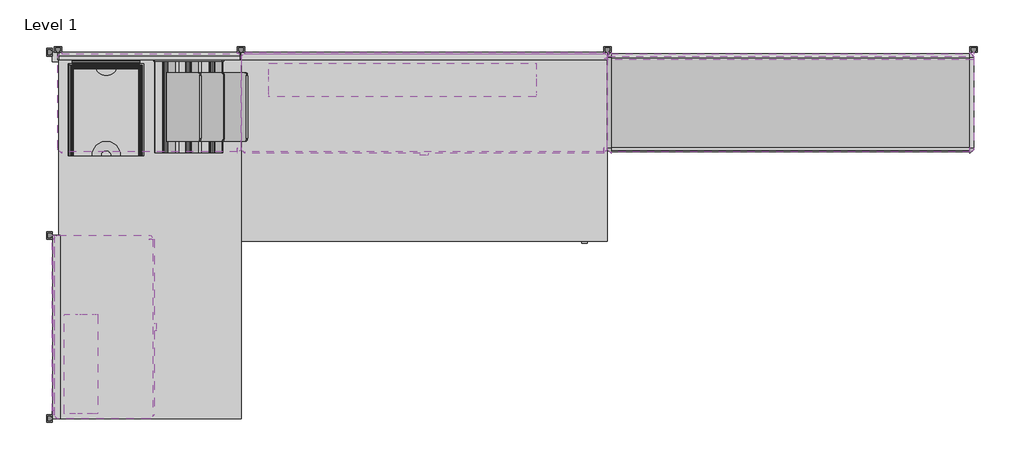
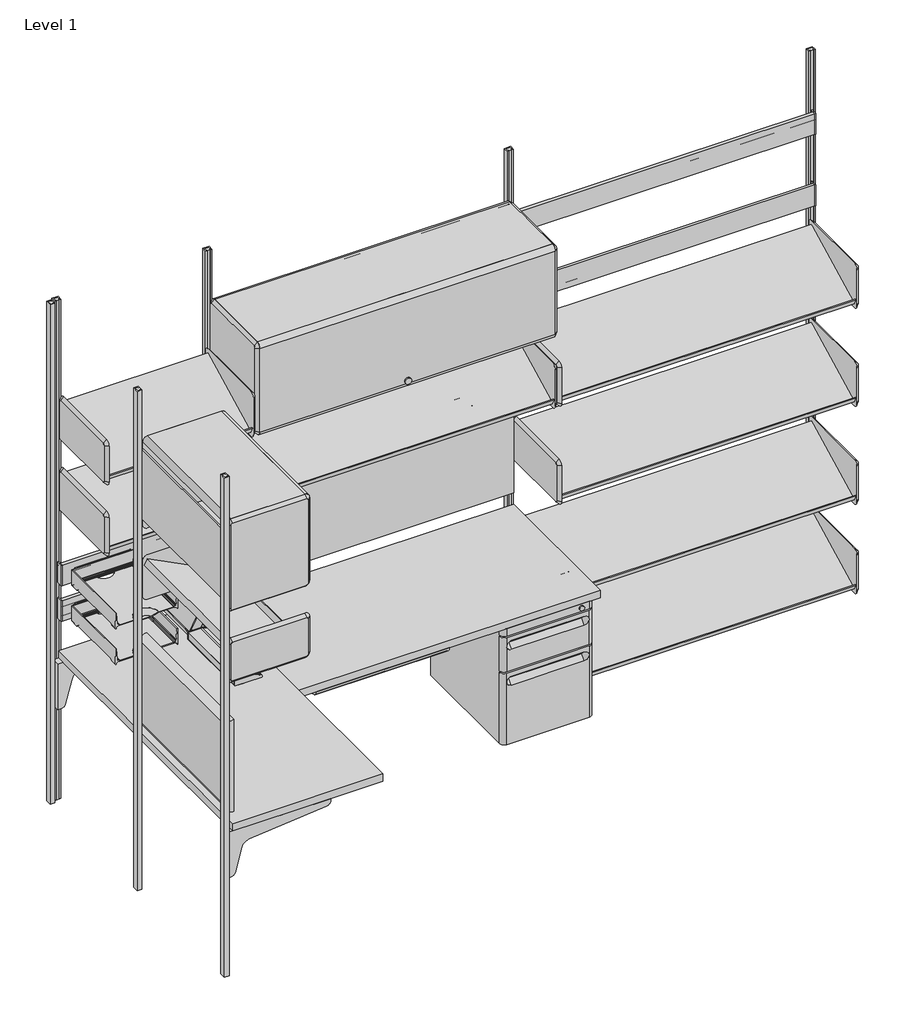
# One storey, incomplete: 32 furniture elements, 2 light fixtures.
"""IFC4 building model written with IfcOpenShell, lengths in millimetres."""

from ifc_helpers import new_model, si_unit, origin, place, context, project, spatial, transform, mapped, element, save
from components import furniture_fea97cc0, furniture_03e73c74, furniture_1b200335, furniture_8229559b, furniture_aa752300, furniture_ed62e435, furniture_5639b6dc, furniture_960b9f32, furniture_377c570e, furniture_061b7ed1, furniture_083a197f, furniture_17bfd149, furniture_52571506, furniture_cacd6572, furniture_cb78dd66, furniture_33cd207f, furniture_439dfb7c, furniture_a5020ea5, furniture_f611e85c, furniture_c21b4e62, furniture_c8015b5a, furniture_30e258f1, furniture_ea425779, light_fixture_6c250f8a, light_fixture_601a4b46

model = new_model("IFC4")

# Units and contexts
model_context = context("Model", 3, world=origin())
ifc_project = project(units=[si_unit("LENGTHUNIT", "METRE", prefix="MILLI")], contexts=[model_context])

# Site, building, storey
site = spatial("IfcSite", under=ifc_project)
building = spatial("IfcBuilding", under=site)
storey = spatial("IfcBuildingStorey", under=building, Name="Level 1", Elevation=0.0)

# Furniture
placement = place(None, origin())
furniture_shape = furniture_fea97cc0(model_context)
element("IfcFurniture", 1, ObjectType="HermanMiller_ActionOffice_A3352_B-StyleFlipperDoorUnit : 15 1/2\"H x 13\"D x 24\"W", at=placement, inside=storey, context=model_context, shape_type="MappedRepresentation", body=[
    mapped(furniture_shape, transform((165.1, -933.45, 0.0), x_axis=(0.0, 1.0, 0.0), y_axis=(-1.0, 0.0, 0.0), z_axis=(0.0, 0.0, 1.0))),
])
furniture_2_shape = furniture_03e73c74(model_context)
element("IfcFurniture", 2, ObjectType="HermanMiller_ActionOffice_A3220_B-StyleStorageDisplay : Display 13\"D x 24\"W", at=placement, inside=storey, context=model_context, shape_type="MappedRepresentation", body=[
    mapped(furniture_2_shape, transform((165.1, -809.5079955, 0.0), x_axis=(0.0, 1.0, 0.0), y_axis=(-1.0, 0.0, 0.0), z_axis=(0.0, 0.0, 1.0))),
])
element("IfcFurniture", 3, ObjectType="HermanMiller_ActionOffice_A3220_B-StyleStorageDisplay : Display 13\"D x 24\"W", at=placement, inside=storey, context=model_context, shape_type="MappedRepresentation", body=[
    mapped(furniture_2_shape, transform((428.7420045, -200.025, 0.0), x_axis=(1.0, 0.0, 0.0), y_axis=(0.0, 1.0, 0.0), z_axis=(0.0, 0.0, 1.0))),
])
furniture_3_shape = furniture_1b200335(model_context)
element("IfcFurniture", 4, ObjectType="HermanMiller_Quadrant_G5112_B-PullSuspendedPedestal : 20\"H x 20\"D x 15\"W BF", at=placement, inside=storey, context=model_context, shape_type="MappedRepresentation", body=[
    mapped(furniture_3_shape, transform((1617.6625, -388.937503, 0.0), x_axis=(1.0, 0.0, 0.0), y_axis=(0.0, 1.0, 0.0), z_axis=(0.0, 0.0, 1.0))),
])
furniture_4_shape = furniture_8229559b(model_context)
element("IfcFurniture", 5, ObjectType="HermanMiller_ThrivePortfolio_Y7216_PaperTray : 3\"H x 12\"D x 10\"W", at=placement, inside=storey, context=model_context, shape_type="MappedRepresentation", body=[
    mapped(furniture_4_shape, transform((160.12668, -209.59826, 0.0), x_axis=(1.0, 0.0, 0.0), y_axis=(0.0, 1.0, 0.0), z_axis=(0.0, 0.0, 1.0))),
])
furniture_5_shape = furniture_aa752300(model_context)
element("IfcFurniture", 6, ObjectType="HermanMiller_ThrivePortfolio_Y7218_DiagonalTray : 8 1/2\"H x 12\"D x 13\"W", at=placement, inside=storey, context=model_context, shape_type="MappedRepresentation", body=[
    mapped(furniture_5_shape, transform((435.414177, -199.3138, 0.0), x_axis=(1.0, 0.0, 0.0), y_axis=(0.0, 1.0, 0.0), z_axis=(0.0, 0.0, 1.0))),
])
furniture_6_shape = furniture_ed62e435(model_context)
element("IfcFurniture", 7, ObjectType="HermanMiller_ThrivePortfolio_Y7216_PaperTray : 3\"H x 12\"D x 10\"W", at=placement, inside=storey, context=model_context, shape_type="MappedRepresentation", body=[
    mapped(furniture_6_shape, transform((160.12668, -209.59826, 0.0), x_axis=(1.0, 0.0, 0.0), y_axis=(0.0, 1.0, 0.0), z_axis=(0.0, 0.0, 1.0))),
])
furniture_7_shape = furniture_5639b6dc(model_context)
element("IfcFurniture", 8, ObjectType="HermanMiller_ThrivePortfolio_Y5010_PencilDrawer : 2\"H x 16\"D x 21\"W", at=placement, inside=storey, context=model_context, shape_type="MappedRepresentation", body=[
    mapped(furniture_7_shape, transform((950.9125, -441.325, 0.0), x_axis=(1.0, 0.0, 0.0), y_axis=(0.0, 1.0, 0.0), z_axis=(0.0, 0.0, 1.0))),
])
furniture_8_shape = furniture_960b9f32(model_context)
element("IfcFurniture", 9, ObjectType="HermanMiller_ActionOffice_A3610_ToolBar : 4\"H x 48\"W", at=placement, inside=storey, context=model_context, shape_type="MappedRepresentation", body=[
    mapped(furniture_8_shape, transform((2438.4, -31.7499996, 0.0), x_axis=(1.0, 0.0, 0.0), y_axis=(0.0, 1.0, 0.0), z_axis=(0.0, 0.0, 1.0))),
])
furniture_9_shape = furniture_377c570e(model_context)
element("IfcFurniture", 10, ObjectType="HermanMiller_ActionOffice_A3610_ToolBar : 4\"H x 48\"W", at=placement, inside=storey, context=model_context, shape_type="MappedRepresentation", body=[
    mapped(furniture_9_shape, transform((2438.4, -31.7499996, 0.0), x_axis=(1.0, 0.0, 0.0), y_axis=(0.0, 1.0, 0.0), z_axis=(0.0, 0.0, 1.0))),
])
furniture_10_shape = furniture_061b7ed1(model_context)
element("IfcFurniture", 11, ObjectType="HermanMiller_ActionOffice_A3410_B-StyleTackboard : 16\"H x 24\"W", at=placement, inside=storey, context=model_context, shape_type="MappedRepresentation", body=[
    mapped(furniture_10_shape, transform((-5.40766, -933.45, 0.0), x_axis=(0.0, -1.0, 0.0), y_axis=(1.0, 0.0, 0.0), z_axis=(0.0, 0.0, 1.0))),
])
furniture_11_shape = furniture_083a197f(model_context)
element("IfcFurniture", 12, ObjectType="HermanMiller_ActionOffice_A2310_Sq-EdgeRectangularWorkSurface : 24\"D x 48\"W", at=placement, inside=storey, context=model_context, shape_type="MappedRepresentation", body=[
    mapped(furniture_11_shape, transform((295.275, -628.65, 0.0), x_axis=(0.0, 1.0, 0.0), y_axis=(-1.0, 0.0, 0.0), z_axis=(0.0, 0.0, 1.0))),
])
element("IfcFurniture", 13, ObjectType="HermanMiller_ActionOffice_A2310_Sq-EdgeRectangularWorkSurface : 24\"D x 48\"W", at=placement, inside=storey, context=model_context, shape_type="MappedRepresentation", body=[
    mapped(furniture_11_shape, transform((1219.2, -333.375, 0.0), x_axis=(1.0, 0.0, 0.0), y_axis=(0.0, 1.0, 0.0), z_axis=(0.0, 0.0, 1.0))),
])
furniture_12_shape = furniture_17bfd149(model_context)
element("IfcFurniture", 14, ObjectType="HermanMiller_ActionOffice_A3610_ToolBar : 4\"H x 24\"W", at=placement, inside=storey, context=model_context, shape_type="MappedRepresentation", body=[
    mapped(furniture_12_shape, transform((304.8, -31.7499996, 0.0), x_axis=(1.0, 0.0, 0.0), y_axis=(0.0, 1.0, 0.0), z_axis=(0.0, 0.0, 1.0))),
])
furniture_13_shape = furniture_52571506(model_context)
element("IfcFurniture", 15, ObjectType="HermanMiller_ActionOffice_A3610_ToolBar : 4\"H x 24\"W", at=placement, inside=storey, context=model_context, shape_type="MappedRepresentation", body=[
    mapped(furniture_13_shape, transform((304.8, -31.7499996, 0.0), x_axis=(1.0, 0.0, 0.0), y_axis=(0.0, 1.0, 0.0), z_axis=(0.0, 0.0, 1.0))),
])
furniture_14_shape = furniture_cacd6572(model_context)
element("IfcFurniture", 16, ObjectType="HermanMiller_ActionOffice_A3220_B-StyleStorageDisplay : Display 13\"D x 24\"W", at=placement, inside=storey, context=model_context, shape_type="MappedRepresentation", body=[
    mapped(furniture_14_shape, transform((428.7420045, -200.025, 0.0), x_axis=(1.0, 0.0, 0.0), y_axis=(0.0, 1.0, 0.0), z_axis=(0.0, 0.0, 1.0))),
])
furniture_15_shape = furniture_cb78dd66(model_context)
element("IfcFurniture", 17, ObjectType="HermanMiller_ActionOffice_A3410_B-StyleTackboard : 16\"H x 48\"W", at=placement, inside=storey, context=model_context, shape_type="MappedRepresentation", body=[
    mapped(furniture_15_shape, transform((1219.2, -31.75, 0.0), x_axis=(-1.0, 0.0, 0.0), y_axis=(0.0, -1.0, 0.0), z_axis=(0.0, 0.0, 1.0))),
])
furniture_16_shape = furniture_33cd207f(model_context)
element("IfcFurniture", 18, ObjectType="HermanMiller_ActionOffice_A3352_B-StyleFlipperDoorUnit : 15 1/2\"H x 13\"D x 48\"W", at=placement, inside=storey, context=model_context, shape_type="MappedRepresentation", body=[
    mapped(furniture_16_shape, transform((1219.2, -200.20026, 0.0), x_axis=(1.0, 0.0, 0.0), y_axis=(0.0, 1.0, 0.0), z_axis=(0.0, 0.0, 1.0))),
])
furniture_17_shape = furniture_439dfb7c(model_context)
element("IfcFurniture", 19, ObjectType="HermanMiller_ActionOffice_A3220_B-StyleStorageDisplay : Display 13\"D x 48\"W", at=placement, inside=storey, context=model_context, shape_type="MappedRepresentation", body=[
    mapped(furniture_17_shape, transform((1343.1420045, -200.025, 0.0), x_axis=(1.0, 0.0, 0.0), y_axis=(0.0, 1.0, 0.0), z_axis=(0.0, 0.0, 1.0))),
])
element("IfcFurniture", 20, ObjectType="HermanMiller_ActionOffice_A3220_B-StyleStorageDisplay : Display 13\"D x 48\"W", at=placement, inside=storey, context=model_context, shape_type="MappedRepresentation", body=[
    mapped(furniture_17_shape, transform((2562.3420045, -200.025, 0.0), x_axis=(1.0, 0.0, 0.0), y_axis=(0.0, 1.0, 0.0), z_axis=(0.0, 0.0, 1.0))),
])
furniture_18_shape = furniture_a5020ea5(model_context)
element("IfcFurniture", 21, ObjectType="HermanMiller_ActionOffice_A3220_B-StyleStorageDisplay : Display 13\"D x 48\"W", at=placement, inside=storey, context=model_context, shape_type="MappedRepresentation", body=[
    mapped(furniture_18_shape, transform((2562.3420045, -200.025, 0.0), x_axis=(1.0, 0.0, 0.0), y_axis=(0.0, 1.0, 0.0), z_axis=(0.0, 0.0, 1.0))),
])
furniture_19_shape = furniture_f611e85c(model_context)
element("IfcFurniture", 22, ObjectType="HermanMiller_ActionOffice_A3220_B-StyleStorageDisplay : Display 13\"D x 48\"W", at=placement, inside=storey, context=model_context, shape_type="MappedRepresentation", body=[
    mapped(furniture_19_shape, transform((2562.3420045, -200.025, 0.0), x_axis=(1.0, 0.0, 0.0), y_axis=(0.0, 1.0, 0.0), z_axis=(0.0, 0.0, 1.0))),
])
furniture_20_shape = furniture_c21b4e62(model_context)
element("IfcFurniture", 23, ObjectType="HermanMiller_ActionOffice_A3220_B-StyleStorageDisplay : Display 13\"D x 48\"W", at=placement, inside=storey, context=model_context, shape_type="MappedRepresentation", body=[
    mapped(furniture_20_shape, transform((2562.3420045, -200.025, 0.0), x_axis=(1.0, 0.0, 0.0), y_axis=(0.0, 1.0, 0.0), z_axis=(0.0, 0.0, 1.0))),
])
furniture_21_shape = furniture_c8015b5a(model_context)
element("IfcFurniture", 24, ObjectType="HermanMiller_ActionOffice_A3390_B-StyleFlipperDoorBackPanel : 24\"W", at=placement, inside=storey, context=model_context, shape_type="MappedRepresentation", body=[
    mapped(furniture_21_shape, transform((-12.7, -920.75, 0.0), x_axis=(0.0, -1.0, 0.0), y_axis=(1.0, 0.0, 0.0), z_axis=(0.0, 0.0, 1.0))),
])
furniture_22_shape = furniture_30e258f1(model_context)
element("IfcFurniture", 25, ObjectType="HermanMiller_ActionOffice_A3390_B-StyleFlipperDoorBackPanel : 48\"W", at=placement, inside=storey, context=model_context, shape_type="MappedRepresentation", body=[
    mapped(furniture_22_shape, transform((1219.2, -25.4, 0.0), x_axis=(-1.0, 0.0, 0.0), y_axis=(0.0, -1.0, 0.0), z_axis=(0.0, 0.0, 1.0))),
])
furniture_23_shape = furniture_ea425779(model_context)
element("IfcFurniture", 26, ObjectType="HermanMiller_ActionOffice_AO213_WallStrip : 84\"H", at=placement, inside=storey, context=model_context, shape_type="MappedRepresentation", body=[
    mapped(furniture_23_shape, transform((-38.1, -1238.25, 0.0), x_axis=(0.0, 1.0, 0.0), y_axis=(-1.0, 0.0, 0.0), z_axis=(0.0, 0.0, 1.0))),
])
element("IfcFurniture", 27, ObjectType="HermanMiller_ActionOffice_AO213_WallStrip : 84\"H", at=placement, inside=storey, context=model_context, shape_type="MappedRepresentation", body=[
    mapped(furniture_23_shape, transform((0.0, 0.0, 0.0), x_axis=(1.0, 0.0, 0.0), y_axis=(0.0, 1.0, 0.0), z_axis=(0.0, 0.0, 1.0))),
])
element("IfcFurniture", 28, ObjectType="HermanMiller_ActionOffice_AO213_WallStrip : 84\"H", at=placement, inside=storey, context=model_context, shape_type="MappedRepresentation", body=[
    mapped(furniture_23_shape, transform((609.6, 0.0, 0.0), x_axis=(1.0, 0.0, 0.0), y_axis=(0.0, 1.0, 0.0), z_axis=(0.0, 0.0, 1.0))),
])
element("IfcFurniture", 29, ObjectType="HermanMiller_ActionOffice_AO213_WallStrip : 84\"H", at=placement, inside=storey, context=model_context, shape_type="MappedRepresentation", body=[
    mapped(furniture_23_shape, transform((-38.1, -628.65, 0.0), x_axis=(0.0, 1.0, 0.0), y_axis=(-1.0, 0.0, 0.0), z_axis=(0.0, 0.0, 1.0))),
])
element("IfcFurniture", 30, ObjectType="HermanMiller_ActionOffice_AO213_WallStrip : 84\"H", at=placement, inside=storey, context=model_context, shape_type="MappedRepresentation", body=[
    mapped(furniture_23_shape, transform((-38.1, -19.05, 0.0), x_axis=(0.0, 1.0, 0.0), y_axis=(-1.0, 0.0, 0.0), z_axis=(0.0, 0.0, 1.0))),
])
element("IfcFurniture", 31, ObjectType="HermanMiller_ActionOffice_AO213_WallStrip : 84\"H", at=placement, inside=storey, context=model_context, shape_type="MappedRepresentation", body=[
    mapped(furniture_23_shape, transform((3048.0, 0.0, 0.0), x_axis=(1.0, 0.0, 0.0), y_axis=(0.0, 1.0, 0.0), z_axis=(0.0, 0.0, 1.0))),
])
element("IfcFurniture", 32, ObjectType="HermanMiller_ActionOffice_AO213_WallStrip : 84\"H", at=placement, inside=storey, context=model_context, shape_type="MappedRepresentation", body=[
    mapped(furniture_23_shape, transform((1828.8, 0.0, 0.0), x_axis=(1.0, 0.0, 0.0), y_axis=(0.0, 1.0, 0.0), z_axis=(0.0, 0.0, 1.0))),
])

# Light fixtures
light_fixture_shape = light_fixture_6c250f8a(model_context)
element("IfcLightFixture", 33, ObjectType="HermanMiller_SupplementalProducts_G6136_UtilityTaskLight : AO Etho Canvas 24W", at=placement, inside=storey, context=model_context, shape_type="MappedRepresentation", body=[
    mapped(light_fixture_shape, transform((76.2, -1057.021, 0.0), x_axis=(0.0, 1.0, 0.0), y_axis=(-1.0, 0.0, 0.0), z_axis=(0.0, 0.0, 1.0))),
])
light_fixture_2_shape = light_fixture_601a4b46(model_context)
element("IfcLightFixture", 34, ObjectType="HermanMiller_SupplementalProducts_G6136_UtilityTaskLight : AO Etho Canvas 42W", at=placement, inside=storey, context=model_context, shape_type="MappedRepresentation", body=[
    mapped(light_fixture_2_shape, transform((1147.318, -111.30026, 0.0), x_axis=(1.0, 0.0, 0.0), y_axis=(0.0, 1.0, 0.0), z_axis=(0.0, 0.0, 1.0))),
])

save(model, "model.ifc")
